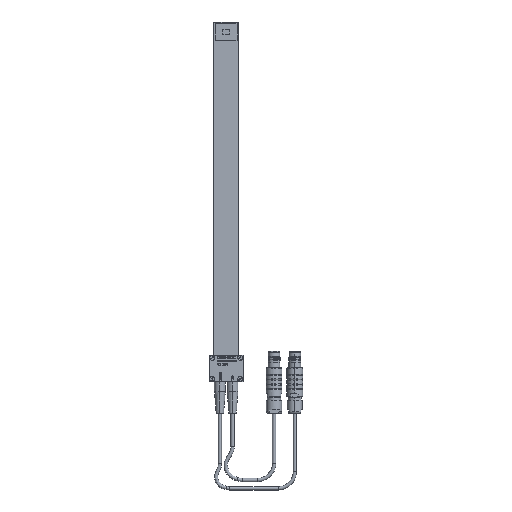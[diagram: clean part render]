
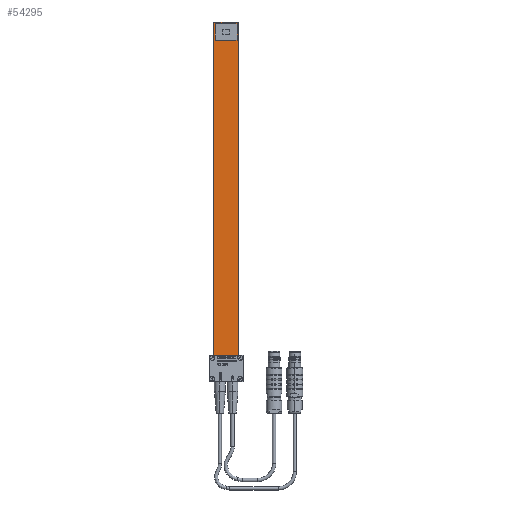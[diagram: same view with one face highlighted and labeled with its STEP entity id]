
A CAD part, top view. The second image highlights one B-rep face of the part: STEP entity #54295.
In plain terms, the highlighted planar face has unit normal (0, 0, 1) as drawn and (0, 1, 0) by its records, which use the part's own axes.
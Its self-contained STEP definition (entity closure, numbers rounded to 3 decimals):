
#53682=DIRECTION('',(0.,0.,1.));
#53683=VECTOR('',#53682,13.);
#53684=CARTESIAN_POINT('',(205.1,0.435,-6.5));
#53685=LINE('',#53684,#53683);
#53689=DIRECTION('',(1.,0.,0.));
#53690=VECTOR('',#53689,9.9);
#53691=CARTESIAN_POINT('',(205.1,0.435,6.5));
#53692=LINE('',#53691,#53690);
#53696=DIRECTION('',(0.,0.,-1.));
#53697=VECTOR('',#53696,13.);
#53698=CARTESIAN_POINT('',(215.,0.435,6.5));
#53699=LINE('',#53698,#53697);
#53703=DIRECTION('',(-1.,0.,0.));
#53704=VECTOR('',#53703,9.9);
#53705=CARTESIAN_POINT('',(215.,0.435,-6.5));
#53706=LINE('',#53705,#53704);
#53738=DIRECTION('',(-1.,0.,0.));
#53739=VECTOR('',#53738,16.);
#53740=CARTESIAN_POINT('',(16.,0.435,-10.));
#53741=LINE('',#53740,#53739);
#53745=DIRECTION('',(0.,0.,-1.));
#53746=VECTOR('',#53745,2.5);
#53747=CARTESIAN_POINT('',(16.,0.435,-7.5));
#53748=LINE('',#53747,#53746);
#53752=DIRECTION('',(-1.,0.,0.));
#53753=VECTOR('',#53752,200.);
#53754=CARTESIAN_POINT('',(216.,0.435,-7.5));
#53755=LINE('',#53754,#53753);
#53759=DIRECTION('',(0.,0.,-1.));
#53760=VECTOR('',#53759,15.);
#53761=CARTESIAN_POINT('',(216.,0.435,7.5));
#53762=LINE('',#53761,#53760);
#53766=DIRECTION('',(1.,0.,0.));
#53767=VECTOR('',#53766,200.);
#53768=CARTESIAN_POINT('',(16.,0.435,7.5));
#53769=LINE('',#53768,#53767);
#53773=DIRECTION('',(0.,0.,-1.));
#53774=VECTOR('',#53773,2.5);
#53775=CARTESIAN_POINT('',(16.,0.435,10.));
#53776=LINE('',#53775,#53774);
#53780=DIRECTION('',(1.,0.,0.));
#53781=VECTOR('',#53780,16.);
#53782=CARTESIAN_POINT('',(0.,0.435,10.));
#53783=LINE('',#53782,#53781);
#53906=DIRECTION('',(0.,0.,1.));
#53907=VECTOR('',#53906,20.);
#53908=CARTESIAN_POINT('',(0.,0.435,-10.));
#53909=LINE('',#53908,#53907);
#54050=CARTESIAN_POINT('',(216.,0.435,7.5));
#54051=CARTESIAN_POINT('',(216.,0.435,-7.5));
#54052=VERTEX_POINT('',#54050);
#54053=VERTEX_POINT('',#54051);
#54070=CARTESIAN_POINT('',(205.1,0.435,-6.5));
#54071=CARTESIAN_POINT('',(205.1,0.435,6.5));
#54072=VERTEX_POINT('',#54070);
#54073=VERTEX_POINT('',#54071);
#54074=CARTESIAN_POINT('',(215.,0.435,6.5));
#54075=VERTEX_POINT('',#54074);
#54076=CARTESIAN_POINT('',(215.,0.435,-6.5));
#54077=VERTEX_POINT('',#54076);
#54086=CARTESIAN_POINT('',(0.,0.435,10.));
#54087=CARTESIAN_POINT('',(16.,0.435,10.));
#54088=VERTEX_POINT('',#54086);
#54089=VERTEX_POINT('',#54087);
#54090=CARTESIAN_POINT('',(16.,0.435,-10.));
#54091=CARTESIAN_POINT('',(0.,0.435,-10.));
#54092=VERTEX_POINT('',#54090);
#54093=VERTEX_POINT('',#54091);
#54103=CARTESIAN_POINT('',(16.,0.435,7.5));
#54105=VERTEX_POINT('',#54103);
#54107=CARTESIAN_POINT('',(16.,0.435,-7.5));
#54109=VERTEX_POINT('',#54107);
#54266=CARTESIAN_POINT('',(0.,0.435,0.));
#54267=DIRECTION('',(0.,1.,0.));
#54268=DIRECTION('',(1.,0.,0.));
#54269=AXIS2_PLACEMENT_3D('',#54266,#54267,#54268);
#54270=PLANE('',#54269);
#54272=ORIENTED_EDGE('',*,*,#54271,.F.);
#54274=ORIENTED_EDGE('',*,*,#54273,.F.);
#54275=ORIENTED_EDGE('',*,*,#54228,.F.);
#54276=ORIENTED_EDGE('',*,*,#54202,.F.);
#54278=ORIENTED_EDGE('',*,*,#54277,.F.);
#54279=ORIENTED_EDGE('',*,*,#54242,.F.);
#54280=ORIENTED_EDGE('',*,*,#54217,.F.);
#54282=ORIENTED_EDGE('',*,*,#54281,.F.);
#54283=EDGE_LOOP('',(#54272,#54274,#54275,#54276,#54278,#54279,#54280,#54282));
#54284=FACE_OUTER_BOUND('',#54283,.F.);
#54286=ORIENTED_EDGE('',*,*,#54285,.T.);
#54288=ORIENTED_EDGE('',*,*,#54287,.T.);
#54290=ORIENTED_EDGE('',*,*,#54289,.T.);
#54292=ORIENTED_EDGE('',*,*,#54291,.T.);
#54293=EDGE_LOOP('',(#54286,#54288,#54290,#54292));
#54294=FACE_BOUND('',#54293,.F.);
#54202=EDGE_CURVE('',#54053,#54109,#53755,.T.);
#54217=EDGE_CURVE('',#54089,#54105,#53776,.T.);
#54228=EDGE_CURVE('',#54109,#54092,#53748,.T.);
#54242=EDGE_CURVE('',#54105,#54052,#53769,.T.);
#54271=EDGE_CURVE('',#54093,#54088,#53909,.T.);
#54273=EDGE_CURVE('',#54092,#54093,#53741,.T.);
#54277=EDGE_CURVE('',#54052,#54053,#53762,.T.);
#54281=EDGE_CURVE('',#54088,#54089,#53783,.T.);
#54285=EDGE_CURVE('',#54072,#54073,#53685,.T.);
#54287=EDGE_CURVE('',#54073,#54075,#53692,.T.);
#54289=EDGE_CURVE('',#54075,#54077,#53699,.T.);
#54291=EDGE_CURVE('',#54077,#54072,#53706,.T.);
#54295=ADVANCED_FACE('',(#54284,#54294),#54270,.T.);
